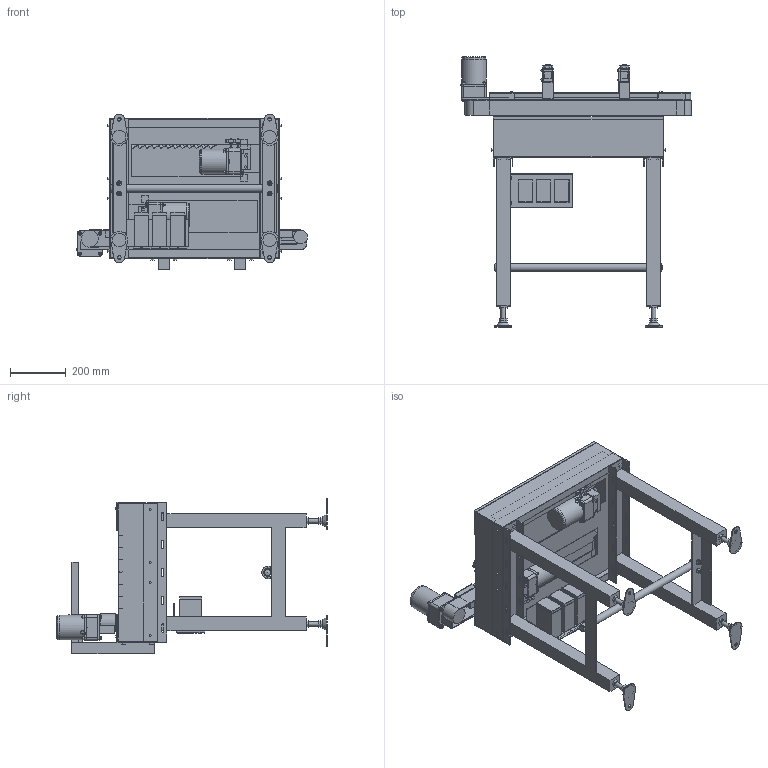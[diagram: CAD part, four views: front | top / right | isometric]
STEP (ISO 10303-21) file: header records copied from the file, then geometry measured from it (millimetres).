
FILE_DESCRIPTION (( 'STEP AP214' ), '1' );
FILE_NAME ('SGA-300-R-B.STEP', '2022-04-12T01:38:32', ( '' ), ( '' ), 'SwSTEP 2.0', 'SolidWorks 2017', '' );
FILE_SCHEMA (( 'AUTOMOTIVE_DESIGN' ));
Length unit declared in the file: millimetre
Products named in the file (18): SWD-U-010 Assy_固定板t6; SWD-SGA-S-ﾃｰｸｱｯﾌﾟ; SWD-SGA-S-原動カバー; SWD-SGA-S-脚_300幅; SGA-300-R-B; SWD-SGA-S-郯讜擾300暆; SK-34-WH; SWD-SGA-S-端囂啞; VFD001L21A_WEB図; SWD-AJ-020(75mm); SWD-SGA-S-ｻｲﾄﾞﾍﾞﾔ_300両側飛出し; SWD-UBM540-403-E2+5GN3-18K_t4; SWD-UBM540-403-E2+5GN3-18K; SWD-SGA-衛動葀杺_590; SWD-SGA-S-徊霓娃詭x帩; SWD-SGA-S-端囂啞枌袡紕; SWD-SGA-S-原動部; SWD-SGA-S-娃敖腾把_300暆
Assembly tree (27 placements, depth 3):
  SGA-300-R-B
    SWD-SGA-S-娃敖腾把_300暆
    SWD-SGA-S-郯讜擾300暆
    SWD-SGA-S-脚_300幅  x2
    SWD-AJ-020(75mm)  x4
    SWD-U-010 Assy_固定板t6  x2
    SWD-SGA-衛動葀杺_590
    SWD-SGA-S-原動部  x2
      SWD-UBM540-403-E2+5GN3-18K_t4
      SWD-SGA-S-原動カバー
      SWD-SGA-S-ﾃｰｸｱｯﾌﾟ
    SWD-SGA-S-端囂啞
      SWD-SGA-S-端囂啞枌袡紕
      VFD001L21A_WEB図  x3
    SWD-SGA-S-徊霓娃詭x帩  x2
    SK-34-WH  x2
    SWD-SGA-S-ｻｲﾄﾞﾍﾞﾔ_300両側飛出し
    SWD-UBM540-403-E2+5GN3-18K
Bounding box: 829.23 x 969.4 x 560 mm (x, y, z)
Volume: 20333498.8 mm3; surface area: 4282185.1 mm2
Topology: 81 solids, 82 shells, 2566 faces, 6349 edges, 4101 vertices
Faces by surface type: plane 1759, cylinder 525, cone 161, bspline 64, torus 34, sphere 23
Full cylindrical faces by diameter (mm): 2 x3, 4.5 x6, 5 x14, 5.5 x3, 6 x34, 6.5 x24, 6.6 x12, 7 x4, 8 x10, 8.49 x3, 9 x8, 10 x12, 10.5 x1, 11.5 x2, 12 x3, 12.2 x2, 12.5 x12, 13 x4, 16 x10, 17 x4, 20 x1, 22 x1, 27.2 x1, 28 x2, 36 x3, 40 x4, 50 x2, 83 x3, 84 x3, 86.3 x3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
Entity records: 56567 total; most frequent: CARTESIAN_POINT 10215, ORIENTED_EDGE 7882, DIRECTION 7834, EDGE_CURVE 3941, LINE 2978, VECTOR 2978, VERTEX_POINT 2671, AXIS2_PLACEMENT_3D 2428
